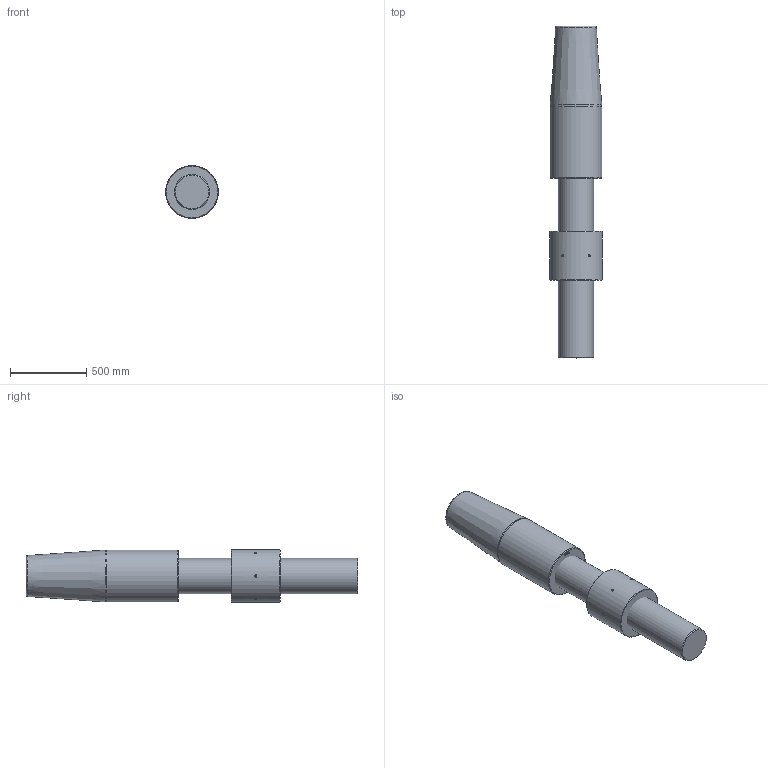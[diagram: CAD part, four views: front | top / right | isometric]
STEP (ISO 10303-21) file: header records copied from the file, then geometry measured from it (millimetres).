
FILE_DESCRIPTION(/* description */ (''),/* implementation_level */ '2;1');
FILE_NAME(/* name */ 'C:\Users\ranca\Desktop\CYM\ARRANGEMENT\CYM116 52 061 0.stp',/* time_stamp */ '2021-04-23T20:48:11+02:00',/* author */ ('ranca'),/* organization */ (''),/* preprocessor_version */ 'ST-DEVELOPER v16.13',/* originating_system */ 'Autodesk Inventor 2018',/* authorisation */ '');
FILE_SCHEMA (('AUTOMOTIVE_DESIGN { 1 0 10303 214 3 1 1 }'));
Length unit declared in the file: millimetre
Products named in the file (4): CYM116-52-061-0; CYM012-52-061-0_ROD; CYC116 52 065 0_CYL SOK_RH; CYM116-41-051-0
Assembly tree (3 placements, depth 2):
  CYM116-52-061-0
    CYM012-52-061-0_ROD
    CYC116 52 065 0_CYL SOK_RH
    CYM116-41-051-0
Bounding box: 345 x 2177 x 345 mm (x, y, z)
Volume: 173247237.2 mm3; surface area: 2846064.7 mm2
Topology: 3 solids, 3 shells, 501 faces, 1351 edges, 898 vertices
Faces by surface type: plane 256, bspline 223, cone 11, cylinder 9, torus 2
Full cylindrical faces by diameter (mm): 15 x6, 230 x1, 340 x1, 345 x1
Entity records: 16894 total; most frequent: CARTESIAN_POINT 5846, ORIENTED_EDGE 2644, DIRECTION 1457, EDGE_CURVE 1322, VERTEX_POINT 892, LINE 843, VECTOR 843, EDGE_LOOP 566
